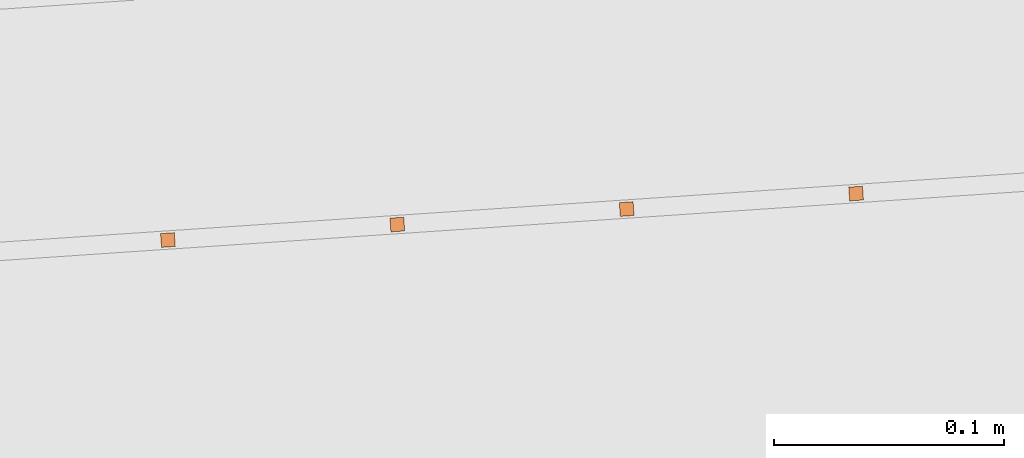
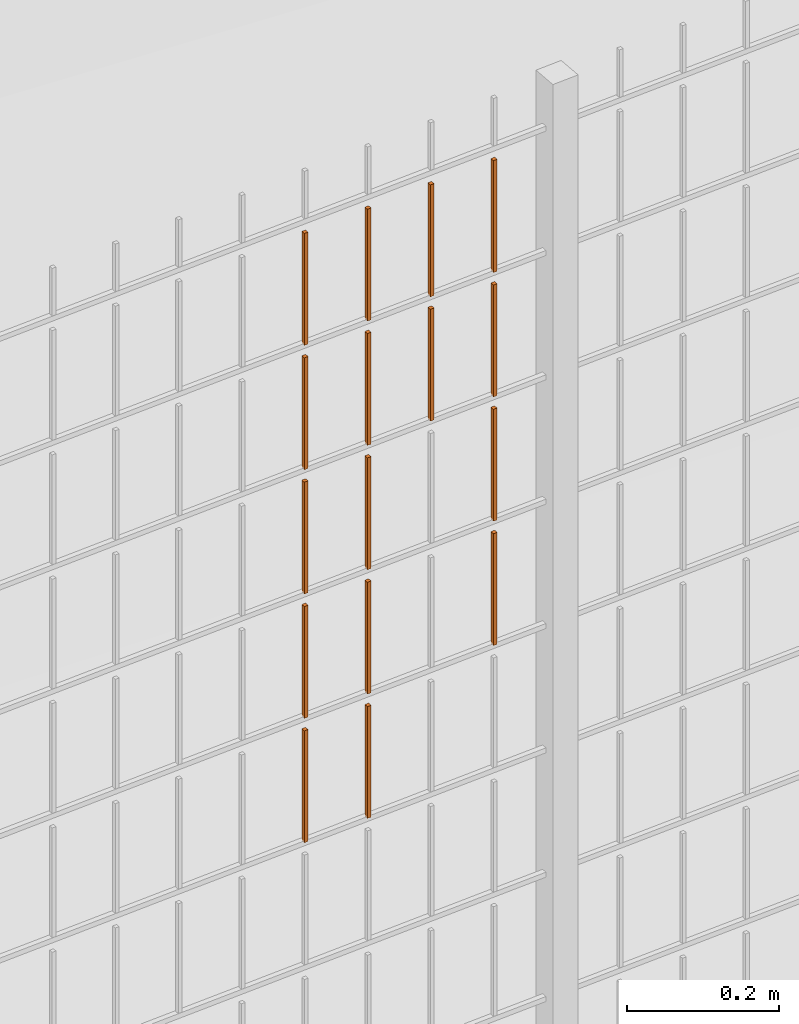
# One storey, part 345 of 1809: 16 proxies, 1 element without a shape of its own.
"""IFC2X3 building model written with IfcOpenShell, lengths in millimetres."""

from ifc_helpers import new_model, entity, si_unit, converted_unit, derived_unit, money_unit, direction, frame, origin_with_axes, place, context, subcontext, project, spatial, faceted_brep, source, transform, mapped, material, type_object, element, aggregate, save


model = new_model("IFC2X3")

# Units and contexts
model_context = context("Model", 3, precision=0.01, world=origin_with_axes(), true_north=direction((0.0, 1.0)))
body_context = subcontext(model_context, "Body", "Model", "MODEL_VIEW")
ifc_project = project(units=[si_unit("LENGTHUNIT", "METRE", prefix="MILLI"), si_unit("AREAUNIT", "SQUARE_METRE"), si_unit("VOLUMEUNIT", "CUBIC_METRE"), converted_unit("PLANEANGLEUNIT", "DEGREE", entity("IfcPlaneAngleMeasure", 0.0174532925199), si_unit("PLANEANGLEUNIT", "RADIAN"), dimensions=[0, 0, 0, 0, 0, 0, 0]), si_unit("SOLIDANGLEUNIT", "STERADIAN"), money_unit("EUR"), converted_unit("TIMEUNIT", "Year", entity("IfcTimeMeasure", 31556926.0), si_unit("TIMEUNIT", "SECOND"), dimensions=[0, 0, 1, 0, 0, 0, 0]), si_unit("MASSUNIT", "GRAM", prefix="KILO"), si_unit("THERMODYNAMICTEMPERATUREUNIT", "DEGREE_CELSIUS"), si_unit("LUMINOUSINTENSITYUNIT", "LUMEN"), si_unit("ENERGYUNIT", "JOULE", prefix="MEGA"), derived_unit("THERMALCONDUCTANCEUNIT", [(si_unit("POWERUNIT", "WATT"), 1), (si_unit("LENGTHUNIT", "METRE"), -1), (si_unit("THERMODYNAMICTEMPERATUREUNIT", "KELVIN"), -1)]), derived_unit("SPECIFICHEATCAPACITYUNIT", [(si_unit("ENERGYUNIT", "JOULE"), 1), (si_unit("MASSUNIT", "GRAM", prefix="KILO"), -1), (si_unit("THERMODYNAMICTEMPERATUREUNIT", "KELVIN"), -1)]), derived_unit("MASSDENSITYUNIT", [(si_unit("MASSUNIT", "GRAM", prefix="KILO"), 1), (si_unit("VOLUMEUNIT", "CUBIC_METRE"), -1)])], contexts=[model_context])

# Site, building, storey
site_placement = place(None, origin_with_axes())
site = spatial("IfcSite", under=ifc_project, at=site_placement, Name="Politse- ja Piirivalveameti ning Päästeameti ühishoone", CompositionType="ELEMENT")
building_placement = place(site_placement, origin_with_axes())
building = spatial("IfcBuilding", under=site, at=building_placement, Name="Politse- ja Piirivalveameti ning Päästeameti ühishoone", CompositionType="ELEMENT")
storey_placement = place(building_placement, origin_with_axes())
storey = spatial("IfcBuildingStorey", under=building, at=storey_placement, Name="Esimene korrus", CompositionType="ELEMENT", Elevation=0.0)

# Proxies
building_element_proxy_type_1 = type_object("IfcBuildingElementProxyType", Name="Railing Type", PredefinedType="NOTDEFINED")
proxy_1_placement = place(storey_placement, frame((89252.001212, -29183.4766571, 203.661247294), z_axis=(0.0, 0.0, 1.0), x_axis=(1.0, 0.0, 0.0)))
proxy_1 = element("IfcBuildingElementProxy", 1, at=proxy_1_placement, inside=storey, type_object=building_element_proxy_type_1, Name="PIIRDEAED")
ifc_material = material(Name="ET-03_Raud")
building_element_proxy_type_2 = type_object("IfcBuildingElementProxyType", Name="IfcBuildingElementProxy", PredefinedType="NOTDEFINED")
shared_shape_1 = source(origin_with_axes(), body_context, "Body", "Brep", [
    faceted_brep([(3.0, 3.0, -0.000752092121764), (-3.0, 3.0, -0.000752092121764), (-3.0, 3.0, 179.99926046), (3.0, 3.0, 179.99926046), (3.0, -3.0, 0.000752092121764), (-3.0, -3.0, 0.000752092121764), (-3.0, -3.0, 180.000764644), (3.0, -3.0, 180.000764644)], [[[0, 1, 2, 3]], [[0, 4, 5, 1]], [[1, 5, 6, 2]], [[3, 2, 6, 7]], [[4, 0, 3, 7]], [[5, 4, 7, 6]]]),
])
proxy_2_placement = place(proxy_1_placement, frame((-29958.4232022, -19321.3531899, 1619.70677369), z_axis=(0.0, 0.0, 1.0), x_axis=(1.0, 0.0, 0.0)))
proxy_2 = element("IfcBuildingElementProxy", 2, at=proxy_2_placement, type_object=building_element_proxy_type_2, material=ifc_material, Name="BALUSTER - 001", context=body_context, shape_type="MappedRepresentation", body=[
    mapped(shared_shape_1, transform((0.0, 0.0, 0.0), x_axis=(-0.0673926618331, 0.997726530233, 0.0), y_axis=(-0.997726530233, -0.0673926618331, 0.0), z_axis=(0.0, 0.0, 1.0))),
])
shared_shape_2 = source(origin_with_axes(), body_context, "Body", "Brep", [
    faceted_brep([(3.0, 3.0, -0.000752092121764), (-3.0, 3.0, -0.000752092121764), (-3.0, 3.0, 179.99926046), (3.0, 3.0, 179.99926046), (3.0, -3.0, 0.000752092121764), (-3.0, -3.0, 0.000752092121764), (-3.0, -3.0, 180.000764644), (3.0, -3.0, 180.000764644)], [[[0, 1, 2, 3]], [[0, 4, 5, 1]], [[1, 5, 6, 2]], [[3, 2, 6, 7]], [[4, 0, 3, 7]], [[5, 4, 7, 6]]]),
])
proxy_3_placement = place(proxy_1_placement, frame((-29958.4232022, -19321.3531899, 1819.70677369), z_axis=(0.0, 0.0, 1.0), x_axis=(1.0, 0.0, 0.0)))
proxy_3 = element("IfcBuildingElementProxy", 3, at=proxy_3_placement, type_object=building_element_proxy_type_2, material=ifc_material, Name="BALUSTER - 001", context=body_context, shape_type="MappedRepresentation", body=[
    mapped(shared_shape_2, transform((0.0, 0.0, 0.0), x_axis=(-0.0673926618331, 0.997726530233, 0.0), y_axis=(-0.997726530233, -0.0673926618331, 0.0), z_axis=(0.0, 0.0, 1.0))),
])
shared_shape_3 = source(origin_with_axes(), body_context, "Body", "Brep", [
    faceted_brep([(3.0, 3.0, -0.000752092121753), (-3.0, 3.0, -0.000752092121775), (-3.0, 3.0, 179.99926046), (3.0, 3.0, 179.99926046), (3.0, -3.0, 0.000752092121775), (-3.0, -3.0, 0.000752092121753), (-3.0, -3.0, 180.000764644), (3.0, -3.0, 180.000764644)], [[[0, 1, 2, 3]], [[0, 4, 5, 1]], [[1, 5, 6, 2]], [[3, 2, 6, 7]], [[4, 0, 3, 7]], [[5, 4, 7, 6]]]),
])
proxy_4_placement = place(proxy_1_placement, frame((-29858.6505492, -19314.6139237, 1819.73184343), z_axis=(0.0, 0.0, 1.0), x_axis=(1.0, 0.0, 0.0)))
proxy_4 = element("IfcBuildingElementProxy", 4, at=proxy_4_placement, type_object=building_element_proxy_type_2, material=ifc_material, Name="BALUSTER - 001", context=body_context, shape_type="MappedRepresentation", body=[
    mapped(shared_shape_3, transform((0.0, 0.0, 0.0), x_axis=(-0.0673926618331, 0.997726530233, 0.0), y_axis=(-0.997726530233, -0.0673926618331, 0.0), z_axis=(0.0, 0.0, 1.0))),
])
shared_shape_4 = source(origin_with_axes(), body_context, "Body", "Brep", [
    faceted_brep([(3.0, 3.0, -0.000752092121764), (-3.0, 3.0, -0.000752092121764), (-3.0, 3.0, 179.99926046), (3.0, 3.0, 179.99926046), (3.0, -3.0, 0.000752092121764), (-3.0, -3.0, 0.000752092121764), (-3.0, -3.0, 180.000764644), (3.0, -3.0, 180.000764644)], [[[0, 1, 2, 3]], [[0, 4, 5, 1]], [[1, 5, 6, 2]], [[3, 2, 6, 7]], [[4, 0, 3, 7]], [[5, 4, 7, 6]]]),
])
proxy_5_placement = place(proxy_1_placement, frame((-30058.1958552, -19328.0924561, 1819.68170395), z_axis=(0.0, 0.0, 1.0), x_axis=(1.0, 0.0, 0.0)))
proxy_5 = element("IfcBuildingElementProxy", 5, at=proxy_5_placement, type_object=building_element_proxy_type_2, material=ifc_material, Name="BALUSTER - 001", context=body_context, shape_type="MappedRepresentation", body=[
    mapped(shared_shape_4, transform((0.0, 0.0, 0.0), x_axis=(-0.0673926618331, 0.997726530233, 0.0), y_axis=(-0.997726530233, -0.0673926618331, 0.0), z_axis=(0.0, 0.0, 1.0))),
])
shared_shape_5 = source(origin_with_axes(), body_context, "Body", "Brep", [
    faceted_brep([(3.0, 3.0, -0.000752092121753), (-3.0, 3.0, -0.000752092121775), (-3.0, 3.0, 179.99926046), (3.0, 3.0, 179.99926046), (3.0, -3.0, 0.000752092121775), (-3.0, -3.0, 0.000752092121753), (-3.0, -3.0, 180.000764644), (3.0, -3.0, 180.000764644)], [[[0, 1, 2, 3]], [[0, 4, 5, 1]], [[1, 5, 6, 2]], [[3, 2, 6, 7]], [[4, 0, 3, 7]], [[5, 4, 7, 6]]]),
])
proxy_6_placement = place(proxy_1_placement, frame((-30157.9685082, -19334.8317223, 1819.65663421), z_axis=(0.0, 0.0, 1.0), x_axis=(1.0, 0.0, 0.0)))
proxy_6 = element("IfcBuildingElementProxy", 6, at=proxy_6_placement, type_object=building_element_proxy_type_2, material=ifc_material, Name="BALUSTER - 001", context=body_context, shape_type="MappedRepresentation", body=[
    mapped(shared_shape_5, transform((0.0, 0.0, 0.0), x_axis=(-0.0673926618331, 0.997726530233, 0.0), y_axis=(-0.997726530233, -0.0673926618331, 0.0), z_axis=(0.0, 0.0, 1.0))),
])
shared_shape_6 = source(origin_with_axes(), body_context, "Body", "Brep", [
    faceted_brep([(3.0, 3.0, -0.000752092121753), (-3.0, 3.0, -0.000752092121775), (-3.0, 3.0, 179.99926046), (3.0, 3.0, 179.99926046), (3.0, -3.0, 0.000752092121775), (-3.0, -3.0, 0.000752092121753), (-3.0, -3.0, 180.000764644), (3.0, -3.0, 180.000764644)], [[[0, 1, 2, 3]], [[0, 4, 5, 1]], [[1, 5, 6, 2]], [[3, 2, 6, 7]], [[4, 0, 3, 7]], [[5, 4, 7, 6]]]),
])
proxy_7_placement = place(proxy_1_placement, frame((-29858.6505492, -19314.6139237, 1219.73184343), z_axis=(0.0, 0.0, 1.0), x_axis=(1.0, 0.0, 0.0)))
proxy_7 = element("IfcBuildingElementProxy", 7, at=proxy_7_placement, type_object=building_element_proxy_type_2, material=ifc_material, Name="BALUSTER - 001", context=body_context, shape_type="MappedRepresentation", body=[
    mapped(shared_shape_6, transform((0.0, 0.0, 0.0), x_axis=(-0.0673926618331, 0.997726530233, 0.0), y_axis=(-0.997726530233, -0.0673926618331, 0.0), z_axis=(0.0, 0.0, 1.0))),
])
shared_shape_7 = source(origin_with_axes(), body_context, "Body", "Brep", [
    faceted_brep([(3.0, 3.0, -0.000752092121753), (-3.0, 3.0, -0.000752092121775), (-3.0, 3.0, 179.99926046), (3.0, 3.0, 179.99926046), (3.0, -3.0, 0.000752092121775), (-3.0, -3.0, 0.000752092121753), (-3.0, -3.0, 180.000764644), (3.0, -3.0, 180.000764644)], [[[0, 1, 2, 3]], [[0, 4, 5, 1]], [[1, 5, 6, 2]], [[3, 2, 6, 7]], [[4, 0, 3, 7]], [[5, 4, 7, 6]]]),
])
proxy_8_placement = place(proxy_1_placement, frame((-30157.9685082, -19334.8317223, 1219.65663421), z_axis=(0.0, 0.0, 1.0), x_axis=(1.0, 0.0, 0.0)))
proxy_8 = element("IfcBuildingElementProxy", 8, at=proxy_8_placement, type_object=building_element_proxy_type_2, material=ifc_material, Name="BALUSTER - 001", context=body_context, shape_type="MappedRepresentation", body=[
    mapped(shared_shape_7, transform((0.0, 0.0, 0.0), x_axis=(-0.0673926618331, 0.997726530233, 0.0), y_axis=(-0.997726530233, -0.0673926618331, 0.0), z_axis=(0.0, 0.0, 1.0))),
])
shared_shape_8 = source(origin_with_axes(), body_context, "Body", "Brep", [
    faceted_brep([(3.0, 3.0, -0.000752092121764), (-3.0, 3.0, -0.000752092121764), (-3.0, 3.0, 179.99926046), (3.0, 3.0, 179.99926046), (3.0, -3.0, 0.000752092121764), (-3.0, -3.0, 0.000752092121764), (-3.0, -3.0, 180.000764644), (3.0, -3.0, 180.000764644)], [[[0, 1, 2, 3]], [[0, 4, 5, 1]], [[1, 5, 6, 2]], [[3, 2, 6, 7]], [[4, 0, 3, 7]], [[5, 4, 7, 6]]]),
])
proxy_9_placement = place(proxy_1_placement, frame((-30058.1958552, -19328.0924561, 1219.68170395), z_axis=(0.0, 0.0, 1.0), x_axis=(1.0, 0.0, 0.0)))
proxy_9 = element("IfcBuildingElementProxy", 9, at=proxy_9_placement, type_object=building_element_proxy_type_2, material=ifc_material, Name="BALUSTER - 001", context=body_context, shape_type="MappedRepresentation", body=[
    mapped(shared_shape_8, transform((0.0, 0.0, 0.0), x_axis=(-0.0673926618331, 0.997726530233, 0.0), y_axis=(-0.997726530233, -0.0673926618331, 0.0), z_axis=(0.0, 0.0, 1.0))),
])
shared_shape_9 = source(origin_with_axes(), body_context, "Body", "Brep", [
    faceted_brep([(3.0, 3.0, -0.000752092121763), (-3.0, 3.0, -0.000752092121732), (-3.00000000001, 2.99999999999, 179.99926046), (2.99999999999, 2.99999999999, 179.99926046), (3.0, -3.0, 0.000752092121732), (-3.0, -3.0, 0.000752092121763), (-3.00000000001, -3.00000000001, 180.000764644), (2.99999999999, -3.00000000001, 180.000764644)], [[[0, 1, 2, 3]], [[0, 4, 5, 1]], [[1, 5, 6, 2]], [[3, 2, 6, 7]], [[4, 0, 3, 7]], [[5, 4, 7, 6]]]),
])
proxy_10_placement = place(proxy_1_placement, frame((-30058.1958552, -19328.0924561, 1019.68170395), z_axis=(0.0, 0.0, 1.0), x_axis=(1.0, 0.0, 0.0)))
proxy_10 = element("IfcBuildingElementProxy", 10, at=proxy_10_placement, type_object=building_element_proxy_type_2, material=ifc_material, Name="BALUSTER - 001", context=body_context, shape_type="MappedRepresentation", body=[
    mapped(shared_shape_9, transform((0.0, 0.0, 0.0), x_axis=(-0.0673926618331, 0.997726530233, 0.0), y_axis=(-0.997726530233, -0.0673926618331, 0.0), z_axis=(0.0, 0.0, 1.0))),
])
shared_shape_10 = source(origin_with_axes(), body_context, "Body", "Brep", [
    faceted_brep([(3.0, 3.0, -0.000752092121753), (-3.0, 3.0, -0.000752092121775), (-3.0, 3.0, 179.99926046), (3.0, 3.0, 179.99926046), (3.0, -3.0, 0.000752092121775), (-3.0, -3.0, 0.000752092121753), (-3.0, -3.0, 180.000764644), (3.0, -3.0, 180.000764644)], [[[0, 1, 2, 3]], [[0, 4, 5, 1]], [[1, 5, 6, 2]], [[3, 2, 6, 7]], [[4, 0, 3, 7]], [[5, 4, 7, 6]]]),
])
proxy_11_placement = place(proxy_1_placement, frame((-29858.6505492, -19314.6139237, 1419.73184343), z_axis=(0.0, 0.0, 1.0), x_axis=(1.0, 0.0, 0.0)))
proxy_11 = element("IfcBuildingElementProxy", 11, at=proxy_11_placement, type_object=building_element_proxy_type_2, material=ifc_material, Name="BALUSTER - 001", context=body_context, shape_type="MappedRepresentation", body=[
    mapped(shared_shape_10, transform((0.0, 0.0, 0.0), x_axis=(-0.0673926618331, 0.997726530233, 0.0), y_axis=(-0.997726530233, -0.0673926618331, 0.0), z_axis=(0.0, 0.0, 1.0))),
])
proxy_12_placement = place(proxy_1_placement, frame((-29858.6505492, -19314.6139237, 1619.73184343), z_axis=(0.0, 0.0, 1.0), x_axis=(1.0, 0.0, 0.0)))
proxy_12 = element("IfcBuildingElementProxy", 12, at=proxy_12_placement, type_object=building_element_proxy_type_2, material=ifc_material, Name="BALUSTER - 001", context=body_context, shape_type="MappedRepresentation", body=[
    mapped(shared_shape_10, transform((0.0, 0.0, 0.0), x_axis=(-0.0673926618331, 0.997726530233, 0.0), y_axis=(-0.997726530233, -0.0673926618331, 0.0), z_axis=(0.0, 0.0, 1.0))),
])
shared_shape_11 = source(origin_with_axes(), body_context, "Body", "Brep", [
    faceted_brep([(3.0, 3.0, -0.000752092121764), (-3.0, 3.0, -0.000752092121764), (-3.0, 3.0, 179.99926046), (3.0, 3.0, 179.99926046), (3.0, -3.0, 0.000752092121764), (-3.0, -3.0, 0.000752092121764), (-3.0, -3.0, 180.000764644), (3.0, -3.0, 180.000764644)], [[[0, 1, 2, 3]], [[0, 4, 5, 1]], [[1, 5, 6, 2]], [[3, 2, 6, 7]], [[4, 0, 3, 7]], [[5, 4, 7, 6]]]),
])
proxy_13_placement = place(proxy_1_placement, frame((-30058.1958552, -19328.0924561, 1419.68170395), z_axis=(0.0, 0.0, 1.0), x_axis=(1.0, 0.0, 0.0)))
proxy_13 = element("IfcBuildingElementProxy", 13, at=proxy_13_placement, type_object=building_element_proxy_type_2, material=ifc_material, Name="BALUSTER - 001", context=body_context, shape_type="MappedRepresentation", body=[
    mapped(shared_shape_11, transform((0.0, 0.0, 0.0), x_axis=(-0.0673926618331, 0.997726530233, 0.0), y_axis=(-0.997726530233, -0.0673926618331, 0.0), z_axis=(0.0, 0.0, 1.0))),
])
shared_shape_12 = source(origin_with_axes(), body_context, "Body", "Brep", [
    faceted_brep([(3.0, 3.0, -0.000752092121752), (-3.0, 3.0, -0.000752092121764), (-3.00000000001, 2.99999999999, 179.99926046), (2.99999999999, 2.99999999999, 179.99926046), (3.0, -3.0, 0.000752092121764), (-3.0, -3.0, 0.000752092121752), (-3.00000000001, -3.00000000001, 180.000764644), (2.99999999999, -3.00000000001, 180.000764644)], [[[0, 1, 2, 3]], [[0, 4, 5, 1]], [[1, 5, 6, 2]], [[3, 2, 6, 7]], [[4, 0, 3, 7]], [[5, 4, 7, 6]]]),
])
proxy_14_placement = place(proxy_1_placement, frame((-30157.9685082, -19334.8317223, 1019.65663421), z_axis=(0.0, 0.0, 1.0), x_axis=(1.0, 0.0, 0.0)))
proxy_14 = element("IfcBuildingElementProxy", 14, at=proxy_14_placement, type_object=building_element_proxy_type_2, material=ifc_material, Name="BALUSTER - 001", context=body_context, shape_type="MappedRepresentation", body=[
    mapped(shared_shape_12, transform((0.0, 0.0, 0.0), x_axis=(-0.0673926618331, 0.997726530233, 0.0), y_axis=(-0.997726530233, -0.0673926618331, 0.0), z_axis=(0.0, 0.0, 1.0))),
])
shared_shape_13 = source(origin_with_axes(), body_context, "Body", "Brep", [
    faceted_brep([(3.0, 3.0, -0.000752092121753), (-3.0, 3.0, -0.000752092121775), (-3.0, 3.0, 179.99926046), (3.0, 3.0, 179.99926046), (3.0, -3.0, 0.000752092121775), (-3.0, -3.0, 0.000752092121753), (-3.0, -3.0, 180.000764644), (3.0, -3.0, 180.000764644)], [[[0, 1, 2, 3]], [[0, 4, 5, 1]], [[1, 5, 6, 2]], [[3, 2, 6, 7]], [[4, 0, 3, 7]], [[5, 4, 7, 6]]]),
])
proxy_15_placement = place(proxy_1_placement, frame((-30157.9685082, -19334.8317223, 1419.65663421), z_axis=(0.0, 0.0, 1.0), x_axis=(1.0, 0.0, 0.0)))
proxy_15 = element("IfcBuildingElementProxy", 15, at=proxy_15_placement, type_object=building_element_proxy_type_2, material=ifc_material, Name="BALUSTER - 001", context=body_context, shape_type="MappedRepresentation", body=[
    mapped(shared_shape_13, transform((0.0, 0.0, 0.0), x_axis=(-0.0673926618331, 0.997726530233, 0.0), y_axis=(-0.997726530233, -0.0673926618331, 0.0), z_axis=(0.0, 0.0, 1.0))),
])
proxy_16_placement = place(proxy_1_placement, frame((-30157.9685082, -19334.8317223, 1619.65663421), z_axis=(0.0, 0.0, 1.0), x_axis=(1.0, 0.0, 0.0)))
proxy_16 = element("IfcBuildingElementProxy", 16, at=proxy_16_placement, type_object=building_element_proxy_type_2, material=ifc_material, Name="BALUSTER - 001", context=body_context, shape_type="MappedRepresentation", body=[
    mapped(shared_shape_13, transform((0.0, 0.0, 0.0), x_axis=(-0.0673926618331, 0.997726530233, 0.0), y_axis=(-0.997726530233, -0.0673926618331, 0.0), z_axis=(0.0, 0.0, 1.0))),
])
shared_shape_14 = source(origin_with_axes(), body_context, "Body", "Brep", [
    faceted_brep([(3.0, 3.0, -0.000752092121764), (-3.0, 3.0, -0.000752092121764), (-3.0, 3.0, 179.99926046), (3.0, 3.0, 179.99926046), (3.0, -3.0, 0.000752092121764), (-3.0, -3.0, 0.000752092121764), (-3.0, -3.0, 180.000764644), (3.0, -3.0, 180.000764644)], [[[0, 1, 2, 3]], [[0, 4, 5, 1]], [[1, 5, 6, 2]], [[3, 2, 6, 7]], [[4, 0, 3, 7]], [[5, 4, 7, 6]]]),
])
proxy_17_placement = place(proxy_1_placement, frame((-30058.1958552, -19328.0924561, 1619.68170395), z_axis=(0.0, 0.0, 1.0), x_axis=(1.0, 0.0, 0.0)))
proxy_17 = element("IfcBuildingElementProxy", 17, at=proxy_17_placement, type_object=building_element_proxy_type_2, material=ifc_material, Name="BALUSTER - 001", context=body_context, shape_type="MappedRepresentation", body=[
    mapped(shared_shape_14, transform((0.0, 0.0, 0.0), x_axis=(-0.0673926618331, 0.997726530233, 0.0), y_axis=(-0.997726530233, -0.0673926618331, 0.0), z_axis=(0.0, 0.0, 1.0))),
])
aggregate(proxy_1, [proxy_10, proxy_14, proxy_7, proxy_9, proxy_8, proxy_11, proxy_13, proxy_15, proxy_12, proxy_2, proxy_17, proxy_16, proxy_4, proxy_3, proxy_5, proxy_6])

save(model, "model.ifc")
